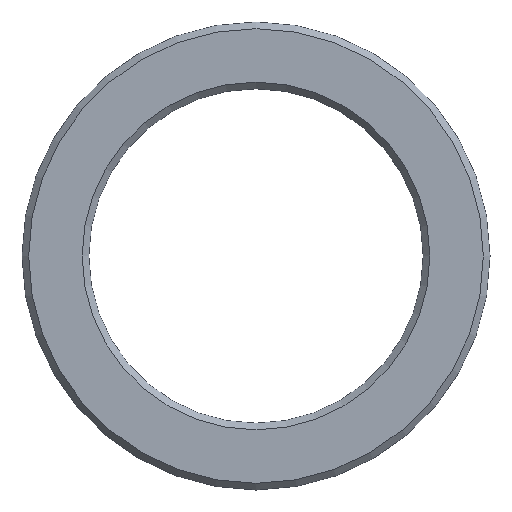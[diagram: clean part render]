
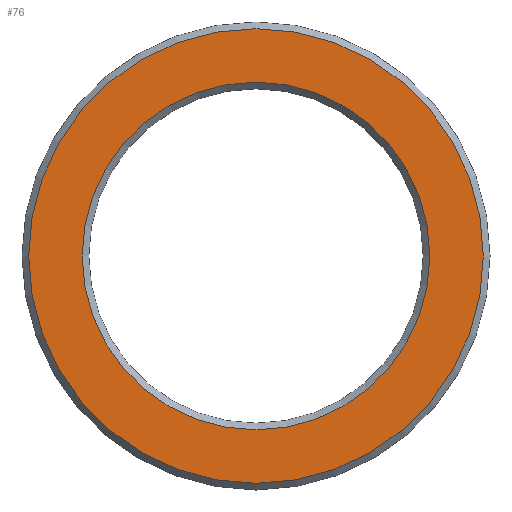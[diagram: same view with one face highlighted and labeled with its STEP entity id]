
A CAD part, left-side view. The second image highlights one B-rep face of the part: STEP entity #76.
In plain terms, the highlighted planar face has unit normal (-1, 0, 0).
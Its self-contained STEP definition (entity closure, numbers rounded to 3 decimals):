
#17=PLANE('',#86);
#20=FACE_BOUND('',#34,.T.);
#26=FACE_OUTER_BOUND('',#33,.T.);
#33=EDGE_LOOP('',(#63));
#34=EDGE_LOOP('',(#64));
#44=CIRCLE('',#85,26.);
#45=CIRCLE('',#87,34.);
#50=VERTEX_POINT('',#125);
#51=VERTEX_POINT('',#128);
#56=EDGE_CURVE('',#50,#50,#44,.T.);
#57=EDGE_CURVE('',#51,#51,#45,.T.);
#63=ORIENTED_EDGE('',*,*,#57,.F.);
#64=ORIENTED_EDGE('',*,*,#56,.F.);
#76=ADVANCED_FACE('',(#26,#20),#17,.T.);
#85=AXIS2_PLACEMENT_3D('',#126,#101,#102);
#86=AXIS2_PLACEMENT_3D('',#127,#103,#104);
#87=AXIS2_PLACEMENT_3D('',#129,#105,#106);
#101=DIRECTION('center_axis',(-1.,0.,0.));
#102=DIRECTION('ref_axis',(0.,-1.,0.));
#103=DIRECTION('center_axis',(-1.,0.,0.));
#104=DIRECTION('ref_axis',(0.,0.,1.));
#105=DIRECTION('center_axis',(1.,0.,0.));
#106=DIRECTION('ref_axis',(0.,-1.,0.));
#125=CARTESIAN_POINT('',(0.,26.,0.));
#126=CARTESIAN_POINT('Origin',(0.,0.,0.));
#127=CARTESIAN_POINT('Origin',(0.,35.,0.));
#128=CARTESIAN_POINT('',(0.,34.,0.));
#129=CARTESIAN_POINT('Origin',(0.,0.,0.));
